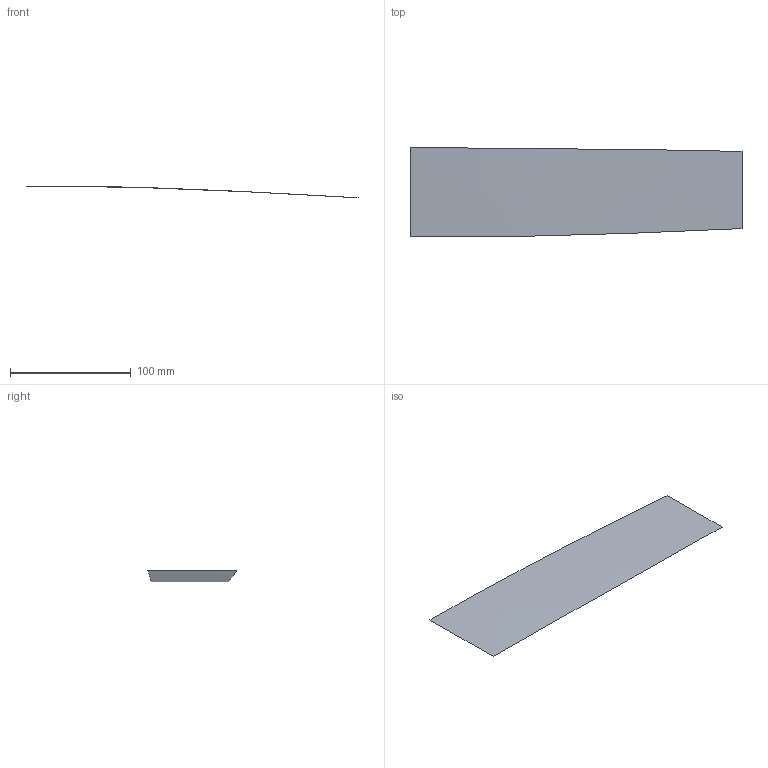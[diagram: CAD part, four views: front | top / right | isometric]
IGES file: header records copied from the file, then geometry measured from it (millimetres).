
Start section: START RECORD GO HERE
Global section: file name: w13.igs; native system: IBM CATIA IGES - CATIA SOLUTIONS V4RELEASE 1.9 REFRESH 01; preprocessor: CATIA SOLUTIONS V4RELEASE 1.9 REFRESH 01; author: cky; date: 990510.133752; units: millimetre
Bounding box: 275 x 74.03 x 9.57 mm (x, y, z)
Surface area: 19425.1 mm2 (no closed solid volume)
Topology: 0 solids, 0 shells, 1 faces, 10 edges, 10 vertices
Faces by surface type: extrusion 1
